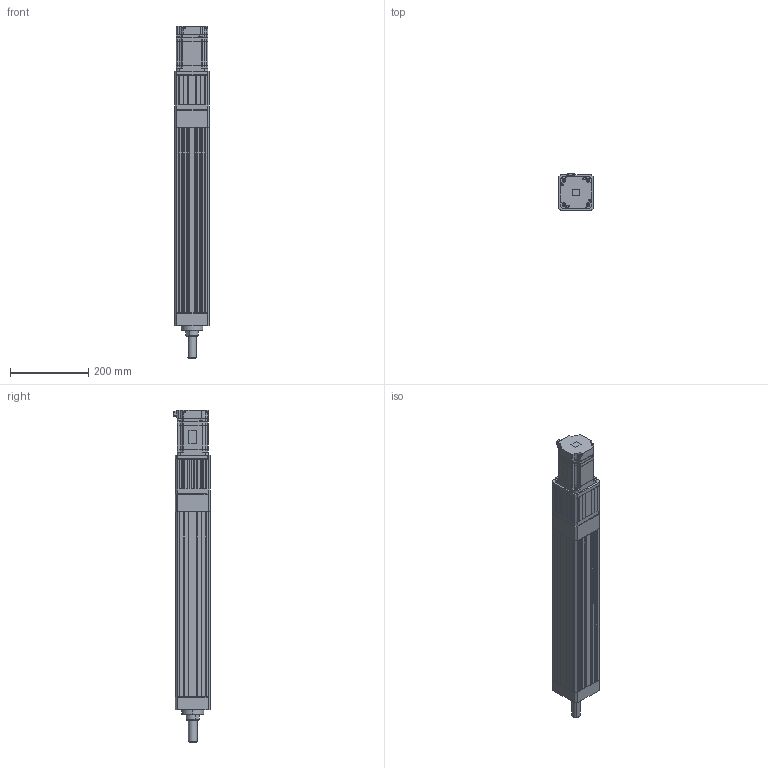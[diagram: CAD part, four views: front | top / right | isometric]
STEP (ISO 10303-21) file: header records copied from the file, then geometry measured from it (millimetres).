
FILE_DESCRIPTION (( 'STEP AP203' ), '1' );
FILE_NAME ('ANS090R-S350-05(10)(20)-W75-M.STEP', '2019-03-02T10:59:14', ( 'user' ), ( '' ), 'SwSTEP 2.0', 'SolidWorks 2013', '' );
FILE_SCHEMA (( 'CONFIG_CONTROL_DESIGN' ));
Length unit declared in the file: millimetre
Products named in the file (4): SGMJV_08A_A21; ANS090 ROD ST350-M; ANS090R-S350-05(10)(20)-W75-M; ANS090R S350 VER2
Assembly tree (3 placements, depth 2):
  ANS090R-S350-05(10)(20)-W75-M
    ANS090R S350 VER2
    SGMJV_08A_A21
    ANS090 ROD ST350-M
Bounding box: 90 x 93.8 x 846.1 mm (x, y, z)
Volume: 3515511.2 mm3; surface area: 606133.5 mm2
Topology: 3 solids, 3 shells, 1438 faces, 3878 edges, 2504 vertices
Faces by surface type: plane 930, cylinder 404, cone 100, bspline 4
Entity records: 45220 total; most frequent: CARTESIAN_POINT 8496, ORIENTED_EDGE 7708, DIRECTION 7414, EDGE_CURVE 3854, LINE 2890, VECTOR 2890, VERTEX_POINT 2504, AXIS2_PLACEMENT_3D 2262
